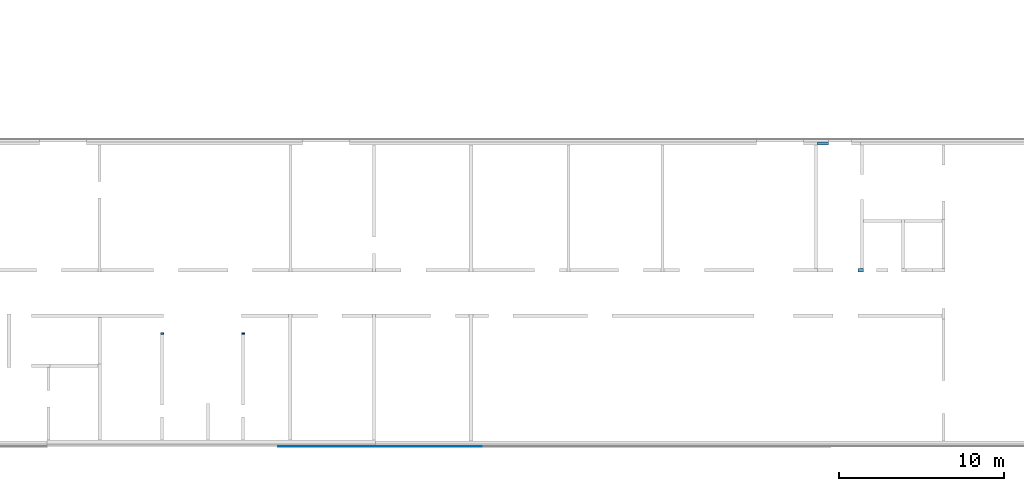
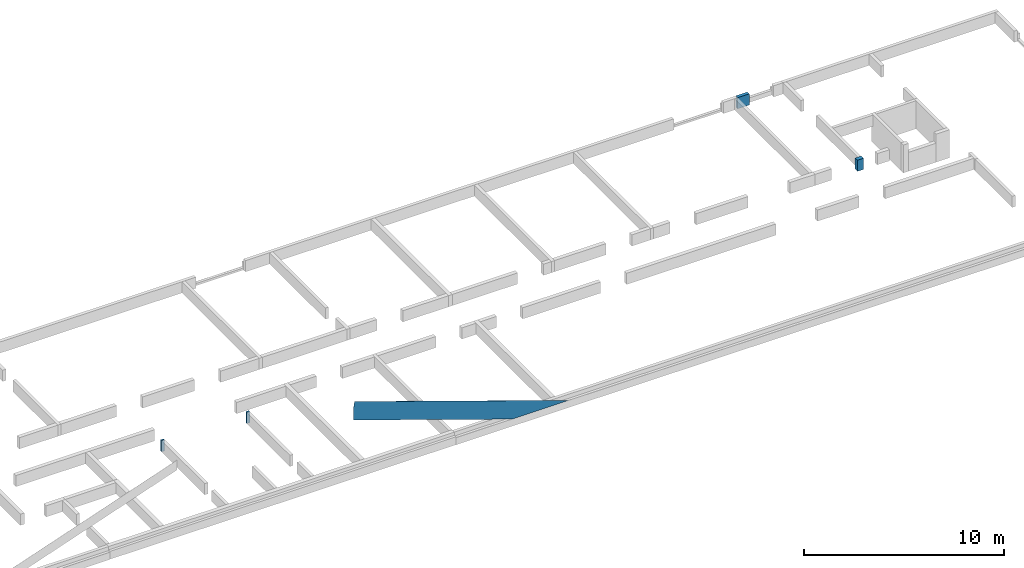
# One storey, part 5 of 7: 4 beams, 1 wall.
"""IFC2X3 building model written with IfcOpenShell, lengths in millimetres."""

from ifc_helpers import new_model, entity, si_unit, converted_unit, derived_unit, money_unit, direction, frame, origin_with_axes, place, context, subcontext, project, spatial, faceted_brep, material, type_object, element, save


model = new_model("IFC2X3")

# Units and contexts
model_context = context("Model", 3, precision=0.01, world=origin_with_axes(), true_north=direction((0.0, 1.0)))
body_context = subcontext(model_context, "Body", "Model", "MODEL_VIEW")
ifc_project = project(units=[si_unit("LENGTHUNIT", "METRE", prefix="MILLI"), si_unit("AREAUNIT", "SQUARE_METRE"), si_unit("VOLUMEUNIT", "CUBIC_METRE"), converted_unit("PLANEANGLEUNIT", "DEGREE", entity("IfcPlaneAngleMeasure", 0.0174532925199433), si_unit("PLANEANGLEUNIT", "RADIAN"), dimensions=[0, 0, 0, 0, 0, 0, 0]), money_unit("EUR"), converted_unit("TIMEUNIT", "Year", entity("IfcTimeMeasure", 31556926.0), si_unit("TIMEUNIT", "SECOND"), dimensions=[0, 0, 1, 0, 0, 0, 0]), si_unit("MASSUNIT", "GRAM", prefix="KILO"), si_unit("THERMODYNAMICTEMPERATUREUNIT", "DEGREE_CELSIUS"), si_unit("LUMINOUSINTENSITYUNIT", "LUMEN"), si_unit("ENERGYUNIT", "JOULE", prefix="MEGA"), derived_unit("THERMALCONDUCTANCEUNIT", [(si_unit("POWERUNIT", "WATT"), 1), (si_unit("LENGTHUNIT", "METRE"), -1), (si_unit("THERMODYNAMICTEMPERATUREUNIT", "KELVIN"), -1)]), derived_unit("SPECIFICHEATCAPACITYUNIT", [(si_unit("ENERGYUNIT", "JOULE"), 1), (si_unit("MASSUNIT", "GRAM", prefix="KILO"), -1), (si_unit("THERMODYNAMICTEMPERATUREUNIT", "KELVIN"), -1)]), derived_unit("MASSDENSITYUNIT", [(si_unit("MASSUNIT", "GRAM", prefix="KILO"), 1), (si_unit("VOLUMEUNIT", "CUBIC_METRE"), -1)])], contexts=[model_context])

# Site, building, storey
site_placement = place(None, origin_with_axes())
site = spatial("IfcSite", under=ifc_project, at=site_placement, Name="ÜBN Kinnistu Nimi -> SOLIBRI", CompositionType="ELEMENT")
building_placement = place(site_placement, origin_with_axes())
building = spatial("IfcBuilding", under=site, at=building_placement, Name="METK ARETUSKESKUS II", CompositionType="ELEMENT")
storey_placement = place(building_placement, frame((0.0, 0.0, -1610.0), z_axis=(0.0, 0.0, 1.0), x_axis=(1.0, 0.0, 0.0)))
storey = spatial("IfcBuildingStorey", under=building, at=storey_placement, Name="Vundament", CompositionType="ELEMENT", Elevation=-1610.0)

# Beams
ifc_material_1 = material(Name="31 Konst: raudbetoon monoliitne")
beam_type_1 = type_object("IfcBeamType", Name="31 Konst: raudbetoon monoliitne 180", PredefinedType="BEAM")
beam_1_placement = place(storey_placement, frame((39815.00000193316, 26499.99995853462, 1330.0), z_axis=(0.0, 0.0, 1.0), x_axis=(0.0, 1.0, 0.0)))
element("IfcBeam", 1, at=beam_1_placement, inside=storey, type_object=beam_type_1, material=ifc_material_1, ObjectType="BEAM", context=body_context, shape_type="Brep", body=[
    faceted_brep([(0.0, 0.0, 0.0), (96.99999999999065, 0.0, 0.0), (96.99999999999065, -179.9999999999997, 0.0), (0.0, -179.9999999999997, 0.0), (0.0, 0.0, 680.0000000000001), (96.99999999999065, 0.0, 680.0000000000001), (96.99999999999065, -179.9999999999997, 680.0000000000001), (0.0, -179.9999999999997, 680.0000000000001)], [[[0, 1, 2, 3]], [[4, 5, 1, 0]], [[2, 1, 5, 6]], [[3, 2, 6, 7]], [[4, 0, 3, 7]], [[7, 6, 5, 4]]]),
])
beam_2_placement = place(storey_placement, frame((35085.00000190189, 26499.99995853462, 1330.0), z_axis=(0.0, 0.0, 1.0), x_axis=(0.0, 1.0, 0.0)))
element("IfcBeam", 2, at=beam_2_placement, inside=storey, type_object=beam_type_1, material=ifc_material_1, ObjectType="BEAM", context=body_context, shape_type="Brep", body=[
    faceted_brep([(0.0, 0.0, 680.0000000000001), (96.9999999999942, 0.0, 680.0000000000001), (96.9999999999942, 179.9999999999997, 680.0000000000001), (0.0, 179.9999999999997, 680.0000000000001), (0.0, 0.0, 0.0), (96.9999999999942, 0.0, 0.0), (96.9999999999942, 179.9999999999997, 0.0), (0.0, 179.9999999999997, 0.0)], [[[0, 1, 2, 3]], [[4, 5, 1, 0]], [[2, 1, 5, 6]], [[3, 2, 6, 7]], [[4, 0, 3, 7]], [[7, 6, 5, 4]]]),
])
beam_type_2 = type_object("IfcBeamType", Name="31 Konst: raudbetoon monoliitne 230", PredefinedType="BEAM")
beam_3_placement = place(storey_placement, frame((77190.00000107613, 30265.00000683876, 1330.0), z_axis=(0.0, 0.0, 1.0), x_axis=(1.0, 0.0, 0.0)))
element("IfcBeam", 3, at=beam_3_placement, inside=storey, type_object=beam_type_2, material=ifc_material_1, ObjectType="BEAM", context=body_context, shape_type="Brep", body=[
    faceted_brep([(0.0, 0.0, 680.0000000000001), (340.0000000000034, 0.0, 680.0000000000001), (340.0000000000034, 230.0000000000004, 680.0000000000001), (0.0, 230.0000000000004, 680.0000000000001), (0.0, 0.0, 0.0), (340.0000000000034, 0.0, 0.0), (340.0000000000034, 230.0000000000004, 0.0), (0.0, 230.0000000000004, 0.0)], [[[0, 1, 2, 3]], [[4, 5, 1, 0]], [[2, 1, 5, 6]], [[3, 2, 6, 7]], [[4, 0, 3, 7]], [[7, 6, 5, 4]]]),
])
beam_type_3 = type_object("IfcBeamType", Name="31 Konst: raudbetoon monoliitne 190", PredefinedType="BEAM")
beam_4_placement = place(storey_placement, frame((75399.99999999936, 37970.00000699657, 1330.0), z_axis=(0.0, 0.0, 1.0), x_axis=(-1.0, 0.0, 0.0)))
element("IfcBeam", 4, at=beam_4_placement, inside=storey, type_object=beam_type_3, material=ifc_material_1, ObjectType="BEAM", context=body_context, shape_type="Brep", body=[
    faceted_brep([(664.9999989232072, -189.9999999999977, 0.0), (0.0, -189.9999999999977, 0.0), (0.0, 0.0, 0.0), (664.9999989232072, 0.0, 0.0), (664.9999989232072, -189.9999999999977, 680.0000000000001), (0.0, -189.9999999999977, 680.0000000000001), (0.0, 0.0, 680.0000000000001), (664.9999989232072, 0.0, 680.0000000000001)], [[[0, 1, 2, 3]], [[4, 5, 1, 0]], [[1, 5, 6, 2]], [[3, 2, 6, 7]], [[7, 4, 0, 3]], [[7, 6, 5, 4]]]),
])

# Wall
ifc_material_2 = material(Name="92 Viim: betoonlasuur")
wall_type = type_object("IfcWallType", Name="VS-01b 10", PredefinedType="NOTDEFINED")
wall_placement = place(storey_placement, frame((42029.9999999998, 19690.0, 0.0), z_axis=(0.0, 0.0, 1.0), x_axis=(1.0, 0.0, 0.0)))
element("IfcWall", 5, at=wall_placement, inside=storey, type_object=wall_type, material=ifc_material_2, Name="VS-01b", context=body_context, shape_type="Brep", body=[
    faceted_brep([(12367.29679825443, -9.999999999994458, 1765.000470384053), (12367.29679825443, 0.0, 1765.000470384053), (12367.29679825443, 0.0, 1776.484390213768), (12367.29679825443, -9.99999999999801, 1776.484390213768), (9140.516860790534, 0.0, 1765.000470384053), (9140.516860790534, -9.999999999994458, 1765.000470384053), (0.0, 0.0, 4912.332825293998), (0.0, 0.0, 6034.886179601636), (0.08469021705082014, 0.0, 6034.857018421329), (0.08469021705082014, 0.0, 5706.875992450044), (22.08469021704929, 0.0, 5706.875992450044), (22.0846983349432, 0.0, 5885.000000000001), (72.08470116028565, 0.0, 5885.000000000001), (72.08470884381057, 0.0, 6010.065423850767), (72.08470914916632, -10.00000000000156, 6010.065423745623), (72.08470133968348, -10.00000000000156, 5885.000000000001), (22.08469846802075, -10.00000000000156, 5885.000000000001), (22.08469021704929, -10.00000000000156, 5706.875992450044), (0.08469021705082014, -10.00000000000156, 5706.875992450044), (0.08469021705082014, -10.00000000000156, 6034.857018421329), (0.0, -9.99999999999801, 6034.886179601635), (0.0, -9.99999999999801, 4912.332825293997)], [[[0, 1, 2, 3]], [[4, 1, 0, 5]], [[1, 4, 6, 7, 8, 9, 10, 11, 12, 13, 2]], [[13, 14, 3, 2]], [[5, 0, 3, 14, 15, 16, 17, 18, 19, 20, 21]], [[4, 5, 21, 6]], [[7, 6, 21, 20]], [[7, 20, 19, 8]], [[18, 9, 8, 19]], [[10, 9, 18, 17]], [[16, 11, 10, 17]], [[12, 11, 16, 15]], [[12, 15, 14, 13]]]),
])

save(model, "model.ifc")
